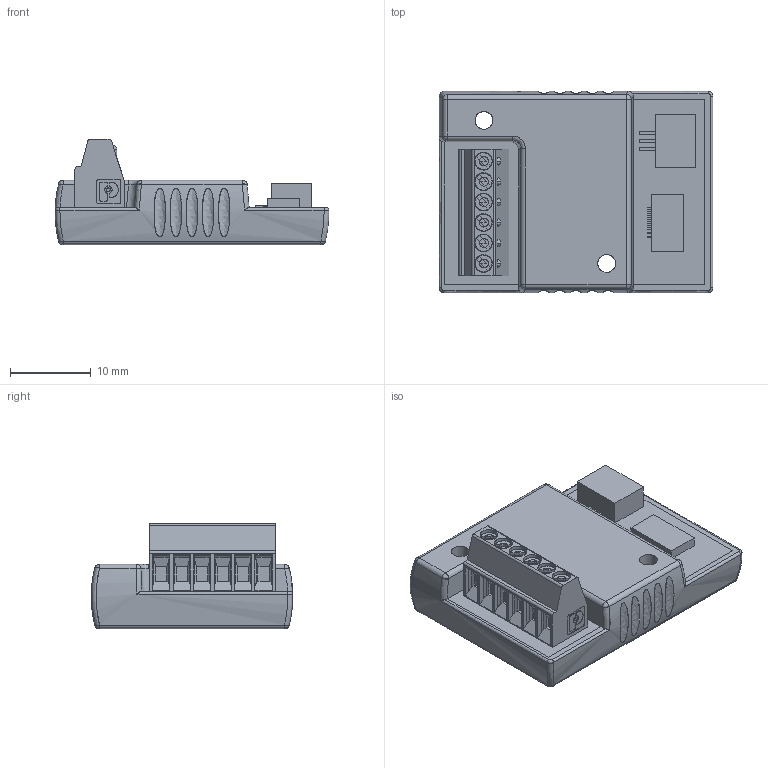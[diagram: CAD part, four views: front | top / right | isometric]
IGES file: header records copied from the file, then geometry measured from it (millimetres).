
Global section: file name: D:\Daten-Huge\PLM_Export\Huellen_aufbr\20120713_fuer_Vertrieb\SC1801F.igs; native system: NX V7.5; preprocessor: SIEMENS PLM Software NX 7.5; author: DR. FRITZ FAULHABER GmbH & Co. KG; organization: DR. FRITZ FAULHABER GmbH & Co. KG; date: 20120713.135334; units: millimetre
Bounding box: 34 x 25 x 13.1 mm (x, y, z)
Surface area: 3204.2 mm2 (no closed solid volume)
Topology: 0 solids, 0 shells, 440 faces, 2475 edges, 2453 vertices
Faces by surface type: bspline 440
